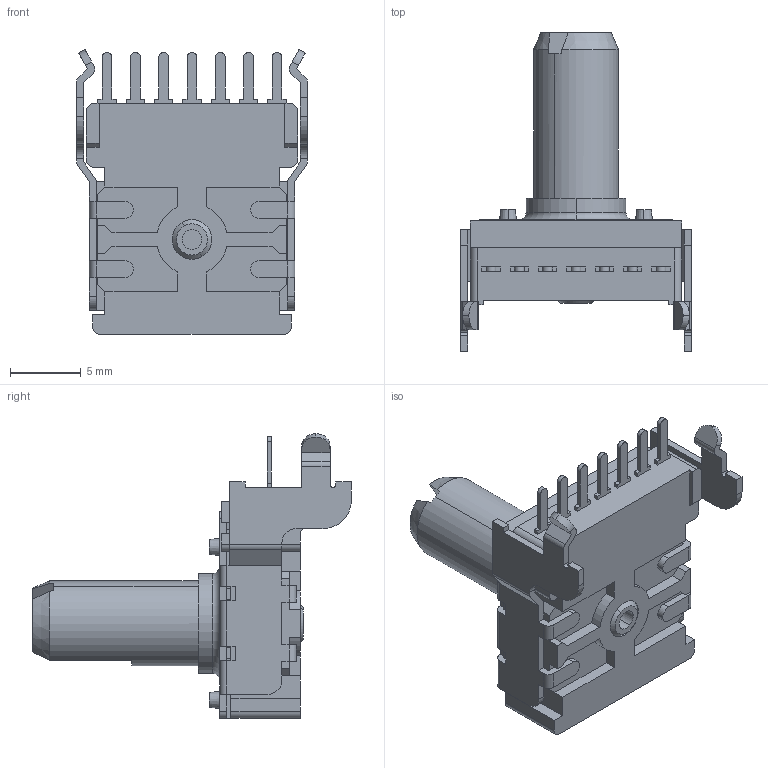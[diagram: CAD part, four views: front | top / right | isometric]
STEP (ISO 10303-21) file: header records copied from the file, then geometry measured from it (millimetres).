
FILE_DESCRIPTION (( 'STEP AP203' ), '1' );
FILE_NAME ('P140KV-F20.STEP', '2026-09-15T13:27:56', ( '' ), ( '' ), 'SwSTEP 2.0', 'SolidWorks 2026', '' );
FILE_SCHEMA (( 'CONFIG_CONTROL_DESIGN' ));
Length unit declared in the file: millimetre
Products named in the file (7): spring_plate; P140KV-F20; F20; H-terminal; Housing; KV_housing; KV bracket
Assembly tree (12 placements, depth 3):
  P140KV-F20
    KV_housing
      Housing
      H-terminal  x7
    F20
    spring_plate
    KV bracket
Bounding box: 16.3 x 22.5 x 20.1 mm (x, y, z)
Volume: 1319.4 mm3; surface area: 2644.2 mm2
Topology: 11 solids, 11 shells, 522 faces, 1435 edges, 936 vertices
Faces by surface type: plane 360, cylinder 140, cone 8, bspline 8, torus 6
Entity records: 15800 total; most frequent: CARTESIAN_POINT 2797, ORIENTED_EDGE 2582, DIRECTION 2473, EDGE_CURVE 1291, LINE 961, VECTOR 961, VERTEX_POINT 840, AXIS2_PLACEMENT_3D 756
